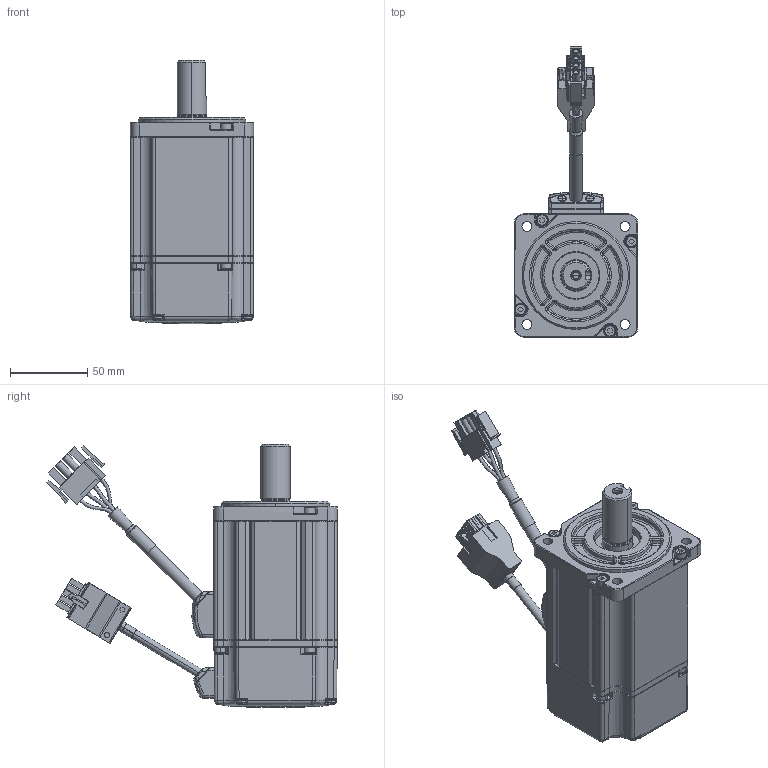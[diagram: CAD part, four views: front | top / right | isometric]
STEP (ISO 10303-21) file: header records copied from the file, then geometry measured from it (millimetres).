
FILE_DESCRIPTION (( 'STEP AP214' ), '1' );
FILE_NAME ('J0750-304-5-000_8426.STEP', '2020-02-20T22:27:04', ( 'Kevin' ), ( 'Hewlett-Packard Company' ), 'SwSTEP 2.0', 'SolidWorks 2016', '' );
FILE_SCHEMA (( 'AUTOMOTIVE_DESIGN' ));
Length unit declared in the file: millimetre
Products named in the file (6): J0750-302-5-000_(modified cable); J0750-304-5-000_8426; Connector with Cable (350779-1); Cable (350779-1); Wires (350779-1); Connector (350779-1)
Assembly tree (5 placements, depth 3):
  J0750-304-5-000_8426
    J0750-302-5-000_(modified cable)
    Connector with Cable (350779-1)
      Connector (350779-1)
      Wires (350779-1)
      Cable (350779-1)
Bounding box: 80 x 188.51 x 170.74 mm (x, y, z)
Volume: 9067.5 mm3; surface area: 86450.1 mm2
Topology: 3 solids, 57 shells, 1262 faces, 3450 edges, 2241 vertices
Faces by surface type: plane 560, cylinder 334, bspline 263, cone 103, torus 2
Full cylindrical faces by diameter (mm): 0.6 x1, 3.556 x4, 4.864 x2, 5.588 x4, 8 x1, 8.8 x1
Entity records: 56125 total; most frequent: CARTESIAN_POINT 26206, ORIENTED_EDGE 6096, DIRECTION 5654, EDGE_CURVE 3395, VERTEX_POINT 2227, AXIS2_PLACEMENT_3D 1895, VECTOR 1864, LINE 1864
